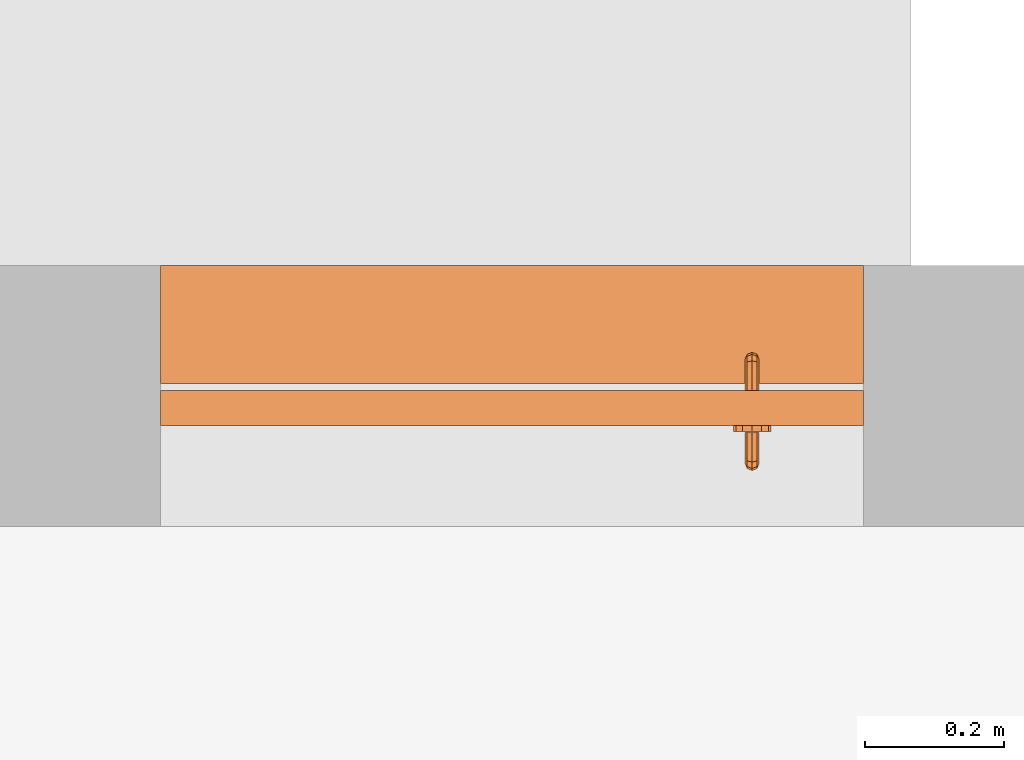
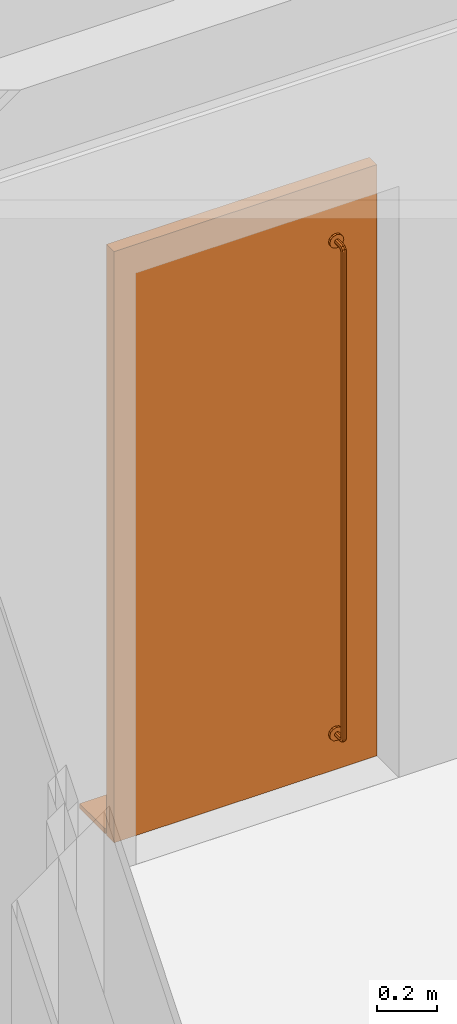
# One storey, part 23 of 28: 1 proxy.
"""IFC4 building model written with IfcOpenShell, lengths in metres."""

from ifc_helpers import new_model, entity, si_unit, converted_unit, derived_unit, direction, frame, origin_with_axes, place, context, subcontext, project, spatial, triangles, type_object, element, save


model = new_model("IFC4")

# Units and contexts
model_context = context("Model", 3, precision=1e-05, world=origin_with_axes(), true_north=direction((-0.526213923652, 0.850352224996)))
body_context = subcontext(model_context, "Body", "Model", "MODEL_VIEW")
ifc_project = project(units=[si_unit("LENGTHUNIT", "METRE"), si_unit("AREAUNIT", "SQUARE_METRE"), si_unit("VOLUMEUNIT", "CUBIC_METRE"), converted_unit("PLANEANGLEUNIT", "DEGREE", entity("IfcPlaneAngleMeasure", 0.0174532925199), si_unit("PLANEANGLEUNIT", "RADIAN"), dimensions=[0, 0, 0, 0, 0, 0, 0]), si_unit("SOLIDANGLEUNIT", "STERADIAN"), converted_unit("TIMEUNIT", "Year", entity("IfcTimeMeasure", 31556926.0), si_unit("TIMEUNIT", "SECOND"), dimensions=[0, 0, 1, 0, 0, 0, 0]), si_unit("MASSUNIT", "GRAM", prefix="KILO"), si_unit("THERMODYNAMICTEMPERATUREUNIT", "DEGREE_CELSIUS"), si_unit("LUMINOUSINTENSITYUNIT", "LUMEN"), si_unit("ENERGYUNIT", "JOULE", prefix="MEGA"), derived_unit("THERMALCONDUCTANCEUNIT", [(si_unit("POWERUNIT", "WATT"), 1), (si_unit("LENGTHUNIT", "METRE"), -1), (si_unit("THERMODYNAMICTEMPERATUREUNIT", "KELVIN"), -1)]), derived_unit("SPECIFICHEATCAPACITYUNIT", [(si_unit("ENERGYUNIT", "JOULE"), 1), (si_unit("MASSUNIT", "GRAM", prefix="KILO"), -1), (si_unit("THERMODYNAMICTEMPERATUREUNIT", "KELVIN"), -1)]), derived_unit("MASSDENSITYUNIT", [(si_unit("MASSUNIT", "GRAM", prefix="KILO"), 1), (si_unit("VOLUMEUNIT", "CUBIC_METRE"), -1)])], contexts=[model_context])

# Site, building, storey
site_placement = place(None, origin_with_axes())
site = spatial("IfcSite", under=ifc_project, at=site_placement, Name="Gelände", CompositionType="ELEMENT")
building_placement = place(site_placement, origin_with_axes())
building = spatial("IfcBuilding", under=site, at=building_placement, Name="Haus vom Nikolaus", CompositionType="ELEMENT")
storey_placement = place(building_placement, origin_with_axes())
storey = spatial("IfcBuildingStorey", under=building, at=storey_placement, Name="EG", CompositionType="ELEMENT", Elevation=0.0)

# Proxy
building_element_proxy_type = type_object("IfcBuildingElementProxyType", Name="Eingangstür 02 1 22", PredefinedType="NOTDEFINED")
proxy_placement = place(storey_placement, frame((2.13999761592, 12.6198320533, 0.2), z_axis=(0.0, 0.0, 1.0), x_axis=(-1.0, 0.0, 0.0)))
element("IfcBuildingElementProxy", 1, at=proxy_placement, inside=storey, type_object=building_element_proxy_type, Name="Tür-003", PredefinedType="NOTDEFINED", context=body_context, shape_type="Tessellation", body=[
    triangles([(1.01, -0.37498, 0.0), (1.01, -0.36, 0.02), (1.01, -0.37498, 0.02), (1.01, -0.36, 0.0), (0.0, -0.36, 0.02), (0.0, -0.37498, 0.02), (0.0, -0.37498, 0.0), (0.0, -0.36, 0.0)], [[1, 2, 3], [1, 4, 2], [3, 5, 6], [3, 2, 5], [7, 3, 6], [7, 1, 3], [7, 4, 1], [7, 8, 4], [8, 2, 4], [8, 5, 2], [6, 8, 7], [6, 5, 8]], closed=True),
    triangles([(1.01, -0.36, 0.0), (1.01, -0.22, 0.02), (1.01, -0.36, 0.02), (1.01, -0.22, 0.0), (0.0, -0.22, 0.02), (0.0, -0.36, 0.02), (0.0, -0.36, 0.0), (0.0, -0.22, 0.0)], [[1, 2, 3], [1, 4, 2], [3, 5, 6], [3, 2, 5], [7, 3, 6], [7, 1, 3], [7, 4, 1], [7, 8, 4], [8, 2, 4], [8, 5, 2], [6, 8, 7], [6, 5, 8]], closed=True),
    triangles([(1.01, -0.22, 0.0), (1.01, -0.20502, 0.02), (1.01, -0.22, 0.02), (1.01, -0.20502, 0.0), (0.0, -0.20502, 0.02), (0.0, -0.22, 0.02), (0.0, -0.22, 0.0), (0.0, -0.20502, 0.0)], [[1, 2, 3], [1, 4, 2], [3, 5, 6], [3, 2, 5], [7, 3, 6], [7, 1, 3], [7, 4, 1], [7, 8, 4], [8, 2, 4], [8, 5, 2], [6, 8, 7], [6, 5, 8]], closed=True),
    triangles([(1.01, -0.185, 2.4), (1.01, -0.195, 0.0), (1.01, -0.185, 0.0), (1.01, -0.195, 2.4), (0.91, -0.195, 0.0), (0.91, -0.185, 0.0), (0.91, -0.185, 2.3), (0.6051, -0.185, 2.3), (0.5051, -0.185, 2.3), (0.0, -0.185, 2.4), (0.1, -0.185, 2.3), (0.0, -0.185, 0.0), (0.1, -0.185, 0.0), (0.0, -0.195, 2.4), (0.0, -0.195, 0.0), (0.1, -0.195, 2.3), (0.1, -0.195, 0.0), (0.5051, -0.195, 2.3), (0.91, -0.195, 2.3), (0.6051, -0.195, 2.3)], [[1, 2, 3], [1, 4, 2], [3, 5, 6], [3, 2, 5], [1, 3, 7], [8, 1, 7], [7, 3, 6], [9, 1, 8], [1, 9, 10], [10, 9, 11], [12, 10, 11], [12, 11, 13], [10, 4, 1], [10, 14, 4], [15, 16, 14], [16, 15, 17], [14, 18, 4], [19, 5, 2], [18, 14, 16], [20, 4, 18], [19, 4, 20], [4, 19, 2], [6, 19, 7], [6, 5, 19], [7, 20, 8], [7, 19, 20], [8, 18, 9], [8, 20, 18], [9, 16, 11], [9, 18, 16], [11, 17, 13], [11, 16, 17], [13, 15, 12], [13, 17, 15], [12, 14, 10], [12, 15, 14]], closed=True),
    triangles([(1.01, -0.145, 2.4), (1.01, -0.185, 0.0), (1.01, -0.145, 0.0), (1.01, -0.185, 2.4), (0.91, -0.185, 0.0), (0.91, -0.145, 0.0), (0.91, -0.145, 2.3), (0.6051, -0.145, 2.3), (0.5051, -0.145, 2.3), (0.0, -0.145, 2.4), (0.1, -0.145, 2.3), (0.0, -0.145, 0.0), (0.1, -0.145, 0.0), (0.0, -0.185, 2.4), (0.91, -0.185, 2.3), (0.1, -0.185, 2.3), (0.0, -0.185, 0.0), (0.1, -0.185, 0.0), (0.5051, -0.185, 2.3), (0.6051, -0.185, 2.3)], [[1, 2, 3], [1, 4, 2], [3, 5, 6], [3, 2, 5], [1, 3, 7], [8, 1, 7], [7, 3, 6], [9, 1, 8], [1, 9, 10], [10, 9, 11], [12, 10, 11], [12, 11, 13], [10, 4, 1], [10, 14, 4], [15, 5, 2], [16, 17, 18], [19, 14, 16], [17, 16, 14], [20, 4, 19], [14, 19, 4], [15, 4, 20], [4, 15, 2], [6, 15, 7], [6, 5, 15], [7, 20, 8], [7, 15, 20], [8, 19, 9], [8, 20, 19], [9, 16, 11], [9, 19, 16], [11, 18, 13], [11, 16, 18], [13, 17, 12], [13, 18, 17], [12, 14, 10], [12, 17, 14]], closed=True),
    triangles([(0.91, -0.145, 0.0), (0.1, -0.185, 0.0), (0.1, -0.145, 0.0), (0.91, -0.185, 0.0), (0.1, -0.185, 2.3), (0.91, -0.185, 2.3), (0.1, -0.145, 2.3), (0.91, -0.145, 2.3)], [[1, 2, 3], [2, 1, 4], [5, 4, 6], [5, 2, 4], [7, 2, 5], [7, 3, 2], [7, 1, 3], [7, 8, 1], [1, 6, 4], [1, 8, 6], [8, 5, 6], [8, 7, 5]], closed=True),
    triangles([(0.167071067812, -0.225930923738, 0.142928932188), (0.16, -0.195, 0.14), (0.167071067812, -0.195, 0.142928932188), (0.16, -0.226316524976, 0.14), (0.167071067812, -0.195, 0.157071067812), (0.17, -0.195, 0.15), (0.152928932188, -0.195, 0.157071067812), (0.16, -0.195, 0.16), (0.152928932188, -0.195, 0.142928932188), (0.15, -0.195, 0.15), (0.17, -0.225, 0.15), (0.167071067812, -0.236160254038, 0.145669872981), (0.16, -0.237676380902, 0.143043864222), (0.152928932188, -0.225930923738, 0.142928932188), (0.15, -0.225, 0.15), (0.152928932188, -0.224069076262, 0.157071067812), (0.16, -0.223683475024, 0.16), (0.167071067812, -0.224069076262, 0.157071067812), (0.17, -0.2325, 0.152009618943), (0.167071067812, -0.244330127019, 0.153839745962), (0.16, -0.246956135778, 0.152323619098), (0.152928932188, -0.236160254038, 0.145669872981), (0.15, -0.2325, 0.152009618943), (0.152928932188, -0.228839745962, 0.158349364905), (0.16, -0.227323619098, 0.160975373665), (0.167071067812, -0.228839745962, 0.158349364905), (0.17, -0.237990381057, 0.1575), (0.16, -0.25, 0.163683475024), (0.167071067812, -0.247071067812, 0.164069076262), (0.152928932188, -0.244330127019, 0.153839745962), (0.15, -0.237990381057, 0.1575), (0.152928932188, -0.231650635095, 0.161160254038), (0.16, -0.229024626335, 0.162676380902), (0.167071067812, -0.231650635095, 0.161160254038), (0.17, -0.24, 0.165), (0.16, -0.25, 2.13631652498), (0.167071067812, -0.247071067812, 2.13593092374), (0.152928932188, -0.247071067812, 0.164069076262), (0.15, -0.24, 0.165), (0.152928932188, -0.232928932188, 0.165930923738), (0.16, -0.23, 0.166316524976), (0.167071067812, -0.232928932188, 0.165930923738), (0.17, -0.24, 2.135), (0.167071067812, -0.244330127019, 2.14616025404), (0.16, -0.246956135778, 2.1476763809), (0.152928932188, -0.247071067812, 2.13593092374), (0.15, -0.24, 2.135), (0.152928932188, -0.232928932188, 2.13406907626), (0.16, -0.23, 2.13368347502), (0.167071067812, -0.232928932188, 2.13406907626), (0.17, -0.237990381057, 2.1425), (0.16, -0.237676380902, 2.15695613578), (0.167071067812, -0.236160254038, 2.15433012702), (0.152928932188, -0.244330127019, 2.14616025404), (0.15, -0.237990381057, 2.1425), (0.152928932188, -0.231650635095, 2.13883974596), (0.16, -0.229024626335, 2.1373236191), (0.167071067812, -0.231650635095, 2.13883974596), (0.17, -0.2325, 2.14799038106), (0.16, -0.226316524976, 2.16), (0.167071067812, -0.225930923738, 2.15707106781), (0.152928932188, -0.236160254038, 2.15433012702), (0.15, -0.2325, 2.14799038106), (0.152928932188, -0.228839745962, 2.14165063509), (0.16, -0.227323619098, 2.13902462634), (0.167071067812, -0.228839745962, 2.14165063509), (0.17, -0.225, 2.15), (0.16, -0.195, 2.16), (0.167071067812, -0.195, 2.15707106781), (0.152928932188, -0.225930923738, 2.15707106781), (0.15, -0.225, 2.15), (0.152928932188, -0.224069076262, 2.14292893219), (0.16, -0.223683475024, 2.14), (0.167071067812, -0.224069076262, 2.14292893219), (0.17, -0.195, 2.15), (0.15, -0.195, 2.15), (0.167071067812, -0.195, 2.14292893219), (0.152928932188, -0.195, 2.14292893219), (0.152928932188, -0.195, 2.15707106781), (0.16, -0.195, 2.14)], [[1, 2, 3], [1, 4, 2], [3, 5, 6], [5, 7, 8], [7, 9, 10], [7, 3, 9], [3, 7, 5], [9, 3, 2], [11, 3, 6], [11, 1, 3], [12, 4, 1], [12, 13, 4], [14, 2, 4], [2, 14, 9], [15, 9, 14], [9, 15, 10], [16, 10, 15], [10, 16, 7], [17, 7, 16], [7, 17, 8], [17, 5, 8], [17, 18, 5], [18, 6, 5], [18, 11, 6], [19, 1, 11], [19, 12, 1], [20, 13, 12], [20, 21, 13], [22, 4, 13], [4, 22, 14], [23, 14, 22], [14, 23, 15], [24, 15, 23], [15, 24, 16], [25, 16, 24], [16, 25, 17], [25, 18, 17], [25, 26, 18], [26, 11, 18], [26, 19, 11], [20, 19, 27], [19, 20, 12], [28, 20, 29], [20, 28, 21], [30, 13, 21], [13, 30, 22], [31, 23, 30], [30, 23, 22], [23, 32, 24], [32, 23, 31], [33, 24, 32], [24, 33, 25], [33, 26, 25], [33, 34, 26], [34, 19, 26], [34, 27, 19], [29, 27, 35], [27, 29, 20], [36, 29, 37], [29, 36, 28], [28, 30, 21], [28, 38, 30], [39, 31, 38], [38, 31, 30], [39, 40, 32], [39, 32, 31], [40, 33, 32], [40, 41, 33], [42, 33, 41], [33, 42, 34], [35, 34, 42], [34, 35, 27], [43, 29, 35], [43, 37, 29], [44, 36, 37], [44, 45, 36], [28, 36, 38], [46, 38, 36], [38, 46, 39], [47, 39, 46], [39, 47, 40], [48, 40, 47], [49, 40, 48], [40, 49, 41], [49, 42, 41], [49, 50, 42], [50, 35, 42], [50, 43, 35], [51, 37, 43], [51, 44, 37], [52, 44, 53], [44, 52, 45], [54, 36, 45], [36, 54, 46], [55, 46, 54], [46, 55, 47], [56, 47, 55], [47, 56, 48], [57, 48, 56], [48, 57, 49], [57, 50, 49], [57, 58, 50], [58, 43, 50], [58, 51, 43], [59, 44, 51], [59, 53, 44], [60, 53, 61], [53, 60, 52], [52, 54, 45], [52, 62, 54], [54, 63, 55], [63, 54, 62], [63, 64, 56], [63, 56, 55], [65, 56, 64], [56, 65, 57], [65, 58, 57], [65, 66, 58], [59, 58, 66], [58, 59, 51], [61, 59, 67], [59, 61, 53], [68, 61, 69], [61, 68, 60], [60, 62, 52], [60, 70, 62], [71, 63, 70], [70, 63, 62], [71, 72, 64], [71, 64, 63], [72, 65, 64], [72, 73, 65], [74, 65, 73], [65, 74, 66], [67, 66, 74], [66, 67, 59], [69, 67, 75], [67, 69, 61], [76, 77, 78], [79, 69, 77], [77, 69, 75], [79, 77, 76], [78, 77, 80], [69, 79, 68], [79, 70, 68], [68, 70, 60], [76, 71, 79], [79, 71, 70], [78, 72, 76], [76, 72, 71], [80, 73, 78], [78, 73, 72], [77, 73, 80], [73, 77, 74], [75, 74, 77], [74, 75, 67]], closed=True),
    triangles([(0.133, -0.185, 0.15), (0.136617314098, -0.194, 0.1365), (0.133, -0.194, 0.15), (0.136617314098, -0.185, 0.1365), (0.16, -0.194, 0.123), (0.187, -0.194, 0.15), (0.1465, -0.194, 0.126617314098), (0.1735, -0.194, 0.126617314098), (0.1735, -0.194, 0.173382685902), (0.183382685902, -0.194, 0.1635), (0.183382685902, -0.194, 0.1365), (0.16, -0.194, 0.177), (0.1465, -0.194, 0.173382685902), (0.136617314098, -0.194, 0.1635), (0.136617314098, -0.185, 0.1635), (0.1465, -0.185, 0.126617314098), (0.16, -0.185, 0.123), (0.1735, -0.185, 0.126617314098), (0.183382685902, -0.185, 0.1365), (0.187, -0.185, 0.15), (0.183382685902, -0.185, 0.1635), (0.1735, -0.185, 0.173382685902), (0.16, -0.185, 0.177), (0.1465, -0.185, 0.173382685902)], [[1, 2, 3], [1, 4, 2], [5, 6, 3], [5, 3, 7], [7, 3, 2], [6, 5, 8], [9, 6, 10], [6, 8, 11], [12, 6, 9], [13, 6, 12], [14, 3, 13], [6, 13, 3], [15, 3, 14], [15, 1, 3], [4, 7, 2], [4, 16, 7], [16, 5, 7], [16, 17, 5], [17, 8, 5], [17, 18, 8], [18, 11, 8], [18, 19, 11], [19, 6, 11], [19, 20, 6], [20, 10, 6], [20, 21, 10], [21, 9, 10], [21, 22, 9], [22, 12, 9], [22, 23, 12], [23, 13, 12], [23, 24, 13], [24, 14, 13], [24, 15, 14]], closed=False),
    triangles([(0.133, -0.185, 2.15), (0.136617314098, -0.194, 2.1365), (0.133, -0.194, 2.15), (0.136617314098, -0.185, 2.1365), (0.1735, -0.194, 2.1733826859), (0.187, -0.194, 2.15), (0.183382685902, -0.194, 2.1635), (0.1735, -0.194, 2.1266173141), (0.1465, -0.194, 2.1266173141), (0.16, -0.194, 2.123), (0.183382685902, -0.194, 2.1365), (0.136617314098, -0.194, 2.1635), (0.16, -0.194, 2.177), (0.1465, -0.194, 2.1733826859), (0.136617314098, -0.185, 2.1635), (0.1465, -0.185, 2.1266173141), (0.16, -0.185, 2.123), (0.1735, -0.185, 2.1266173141), (0.183382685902, -0.185, 2.1365), (0.187, -0.185, 2.15), (0.183382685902, -0.185, 2.1635), (0.1735, -0.185, 2.1733826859), (0.16, -0.185, 2.177), (0.1465, -0.185, 2.1733826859)], [[1, 2, 3], [1, 4, 2], [5, 6, 7], [8, 9, 10], [11, 9, 8], [6, 9, 11], [9, 5, 2], [5, 9, 6], [12, 5, 13], [5, 12, 2], [2, 12, 3], [12, 13, 14], [15, 3, 12], [15, 1, 3], [4, 9, 2], [4, 16, 9], [16, 10, 9], [16, 17, 10], [17, 8, 10], [17, 18, 8], [18, 11, 8], [18, 19, 11], [19, 6, 11], [19, 20, 6], [20, 7, 6], [20, 21, 7], [21, 5, 7], [21, 22, 5], [22, 13, 5], [22, 23, 13], [23, 14, 13], [23, 24, 14], [24, 12, 14], [24, 15, 12]], closed=False),
    triangles([(0.167071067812, -0.104069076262, 0.142928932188), (0.16, -0.135, 0.14), (0.16, -0.103683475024, 0.14), (0.167071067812, -0.135, 0.142928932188), (0.152928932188, -0.104069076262, 0.142928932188), (0.152928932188, -0.135, 0.142928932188), (0.167071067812, -0.0938397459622, 0.145669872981), (0.16, -0.0923236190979, 0.143043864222), (0.17, -0.105, 0.15), (0.17, -0.135, 0.15), (0.152928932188, -0.135, 0.157071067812), (0.15, -0.135, 0.15), (0.167071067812, -0.135, 0.157071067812), (0.16, -0.135, 0.16), (0.15, -0.105, 0.15), (0.152928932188, -0.0938397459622, 0.145669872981), (0.16, -0.0830438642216, 0.152323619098), (0.167071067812, -0.0856698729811, 0.153839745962), (0.17, -0.0975, 0.152009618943), (0.167071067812, -0.105930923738, 0.157071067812), (0.16, -0.106316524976, 0.16), (0.152928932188, -0.105930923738, 0.157071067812), (0.15, -0.0975, 0.152009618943), (0.152928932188, -0.0856698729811, 0.153839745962), (0.16, -0.08, 0.163683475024), (0.167071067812, -0.0829289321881, 0.164069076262), (0.17, -0.0920096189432, 0.1575), (0.167071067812, -0.101160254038, 0.158349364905), (0.16, -0.102676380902, 0.160975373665), (0.152928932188, -0.101160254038, 0.158349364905), (0.15, -0.0920096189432, 0.1575), (0.152928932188, -0.0829289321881, 0.164069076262), (0.167071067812, -0.0829289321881, 2.13593092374), (0.16, -0.08, 2.13631652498), (0.17, -0.09, 0.165), (0.167071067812, -0.0983493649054, 0.161160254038), (0.16, -0.100975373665, 0.162676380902), (0.152928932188, -0.0983493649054, 0.161160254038), (0.15, -0.09, 0.165), (0.152928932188, -0.0829289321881, 2.13593092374), (0.167071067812, -0.0856698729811, 2.14616025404), (0.16, -0.0830438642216, 2.1476763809), (0.17, -0.09, 2.135), (0.167071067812, -0.0970710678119, 0.165930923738), (0.16, -0.1, 0.166316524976), (0.152928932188, -0.0970710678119, 0.165930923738), (0.15, -0.09, 2.135), (0.152928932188, -0.0856698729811, 2.14616025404), (0.167071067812, -0.0938397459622, 2.15433012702), (0.16, -0.0923236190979, 2.15695613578), (0.17, -0.0920096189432, 2.1425), (0.167071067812, -0.0970710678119, 2.13406907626), (0.16, -0.1, 2.13368347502), (0.152928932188, -0.0970710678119, 2.13406907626), (0.15, -0.0920096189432, 2.1425), (0.152928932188, -0.0938397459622, 2.15433012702), (0.16, -0.103683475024, 2.16), (0.167071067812, -0.104069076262, 2.15707106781), (0.17, -0.0975, 2.14799038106), (0.167071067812, -0.0983493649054, 2.13883974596), (0.16, -0.100975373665, 2.1373236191), (0.152928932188, -0.0983493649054, 2.13883974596), (0.15, -0.0975, 2.14799038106), (0.152928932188, -0.104069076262, 2.15707106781), (0.16, -0.135, 2.16), (0.167071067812, -0.135, 2.15707106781), (0.17, -0.105, 2.15), (0.167071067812, -0.101160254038, 2.14165063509), (0.16, -0.102676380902, 2.13902462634), (0.152928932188, -0.101160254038, 2.14165063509), (0.15, -0.105, 2.15), (0.152928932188, -0.135, 2.15707106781), (0.16, -0.135, 2.14), (0.152928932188, -0.135, 2.14292893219), (0.15, -0.135, 2.15), (0.167071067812, -0.135, 2.14292893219), (0.17, -0.135, 2.15), (0.167071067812, -0.105930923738, 2.14292893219), (0.16, -0.106316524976, 2.14), (0.152928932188, -0.105930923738, 2.14292893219)], [[1, 2, 3], [1, 4, 2], [2, 5, 3], [5, 2, 6], [7, 3, 8], [7, 1, 3], [9, 4, 1], [9, 10, 4], [6, 11, 12], [11, 13, 14], [13, 4, 10], [11, 6, 4], [13, 11, 4], [4, 6, 2], [6, 15, 5], [15, 6, 12], [3, 16, 8], [16, 3, 5], [7, 17, 18], [17, 7, 8], [19, 1, 7], [19, 9, 1], [20, 10, 9], [20, 13, 10], [21, 13, 20], [21, 14, 13], [11, 21, 22], [21, 11, 14], [12, 22, 15], [22, 12, 11], [5, 23, 16], [23, 5, 15], [17, 16, 24], [17, 8, 16], [18, 25, 26], [25, 18, 17], [27, 7, 18], [27, 19, 7], [28, 9, 19], [28, 20, 9], [29, 20, 28], [29, 21, 20], [22, 29, 30], [29, 22, 21], [15, 30, 23], [30, 15, 22], [16, 31, 24], [31, 16, 23], [25, 24, 32], [25, 17, 24], [33, 25, 34], [33, 26, 25], [27, 26, 35], [26, 27, 18], [28, 27, 36], [27, 28, 19], [37, 28, 36], [37, 29, 28], [30, 37, 38], [37, 30, 29], [31, 23, 30], [31, 30, 38], [32, 31, 39], [32, 24, 31], [25, 40, 34], [40, 25, 32], [41, 34, 42], [41, 33, 34], [43, 26, 33], [43, 35, 26], [36, 35, 44], [35, 36, 27], [37, 44, 45], [44, 37, 36], [46, 37, 45], [46, 38, 37], [39, 31, 38], [39, 38, 46], [32, 47, 40], [47, 32, 39], [34, 48, 42], [48, 34, 40], [49, 42, 50], [49, 41, 42], [51, 33, 41], [51, 43, 33], [44, 43, 52], [43, 44, 35], [53, 44, 52], [53, 45, 44], [54, 45, 53], [54, 46, 45], [47, 46, 54], [47, 39, 46], [40, 55, 48], [55, 40, 47], [42, 56, 50], [56, 42, 48], [49, 57, 58], [57, 49, 50], [51, 49, 59], [49, 51, 41], [60, 43, 51], [60, 52, 43], [61, 52, 60], [61, 53, 52], [54, 61, 62], [61, 54, 53], [47, 62, 55], [62, 47, 54], [56, 55, 63], [56, 48, 55], [57, 56, 64], [57, 50, 56], [58, 65, 66], [65, 58, 57], [59, 58, 67], [58, 59, 49], [68, 51, 59], [68, 60, 51], [61, 68, 69], [68, 61, 60], [70, 61, 69], [70, 62, 61], [70, 55, 62], [55, 70, 63], [64, 63, 71], [64, 56, 63], [65, 64, 72], [65, 57, 64], [73, 66, 72], [73, 72, 74], [74, 72, 75], [66, 76, 77], [66, 73, 76], [72, 66, 65], [67, 66, 77], [66, 67, 58], [68, 67, 78], [67, 68, 59], [69, 78, 79], [78, 69, 68], [80, 69, 79], [80, 70, 69], [71, 63, 70], [71, 70, 80], [72, 71, 75], [72, 64, 71], [75, 80, 74], [75, 71, 80], [74, 79, 73], [74, 80, 79], [79, 76, 73], [76, 79, 78], [78, 77, 76], [77, 78, 67]], closed=True),
    triangles([(0.133, -0.145, 0.15), (0.136617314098, -0.136, 0.1365), (0.136617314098, -0.145, 0.1365), (0.133, -0.136, 0.15), (0.1465, -0.136, 0.126617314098), (0.1465, -0.145, 0.126617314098), (0.136617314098, -0.145, 0.1635), (0.136617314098, -0.136, 0.1635), (0.1465, -0.136, 0.173382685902), (0.187, -0.136, 0.15), (0.16, -0.136, 0.177), (0.1735, -0.136, 0.173382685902), (0.1735, -0.136, 0.126617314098), (0.183382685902, -0.136, 0.1365), (0.183382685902, -0.136, 0.1635), (0.16, -0.136, 0.123), (0.16, -0.145, 0.123), (0.1465, -0.145, 0.173382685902), (0.16, -0.145, 0.177), (0.1735, -0.145, 0.173382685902), (0.183382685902, -0.145, 0.1635), (0.187, -0.145, 0.15), (0.183382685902, -0.145, 0.1365), (0.1735, -0.145, 0.126617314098)], [[1, 2, 3], [1, 4, 2], [3, 5, 6], [3, 2, 5], [7, 4, 1], [7, 8, 4], [9, 10, 4], [10, 11, 12], [9, 4, 8], [11, 10, 9], [13, 10, 14], [10, 12, 15], [16, 10, 13], [10, 16, 4], [2, 4, 5], [16, 5, 4], [6, 16, 17], [6, 5, 16], [18, 8, 7], [18, 9, 8], [19, 9, 18], [19, 11, 9], [20, 11, 19], [20, 12, 11], [21, 12, 20], [21, 15, 12], [22, 15, 21], [22, 10, 15], [23, 10, 22], [23, 14, 10], [24, 14, 23], [24, 13, 14], [17, 13, 24], [17, 16, 13]], closed=False),
    triangles([(0.133, -0.145, 2.15), (0.136617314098, -0.136, 2.1365), (0.136617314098, -0.145, 2.1365), (0.133, -0.136, 2.15), (0.1465, -0.136, 2.1266173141), (0.1465, -0.145, 2.1266173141), (0.136617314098, -0.145, 2.1635), (0.136617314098, -0.136, 2.1635), (0.187, -0.136, 2.15), (0.1735, -0.136, 2.1266173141), (0.1465, -0.136, 2.1733826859), (0.1735, -0.136, 2.1733826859), (0.16, -0.136, 2.177), (0.183382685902, -0.136, 2.1635), (0.183382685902, -0.136, 2.1365), (0.16, -0.136, 2.123), (0.16, -0.145, 2.123), (0.1465, -0.145, 2.1733826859), (0.16, -0.145, 2.177), (0.1735, -0.145, 2.1733826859), (0.183382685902, -0.145, 2.1635), (0.187, -0.145, 2.15), (0.183382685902, -0.145, 2.1365), (0.1735, -0.145, 2.1266173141)], [[1, 2, 3], [1, 4, 2], [3, 5, 6], [3, 2, 5], [7, 4, 1], [7, 8, 4], [9, 10, 11], [12, 11, 13], [14, 11, 12], [9, 11, 14], [11, 10, 8], [10, 9, 15], [2, 10, 16], [10, 2, 8], [8, 2, 4], [2, 16, 5], [6, 16, 17], [6, 5, 16], [18, 8, 7], [18, 11, 8], [19, 11, 18], [19, 13, 11], [20, 13, 19], [20, 12, 13], [21, 12, 20], [21, 14, 12], [22, 14, 21], [22, 9, 14], [23, 9, 22], [23, 15, 9], [24, 15, 23], [24, 10, 15], [17, 10, 24], [17, 16, 10]], closed=False),
])

save(model, "model.ifc")
